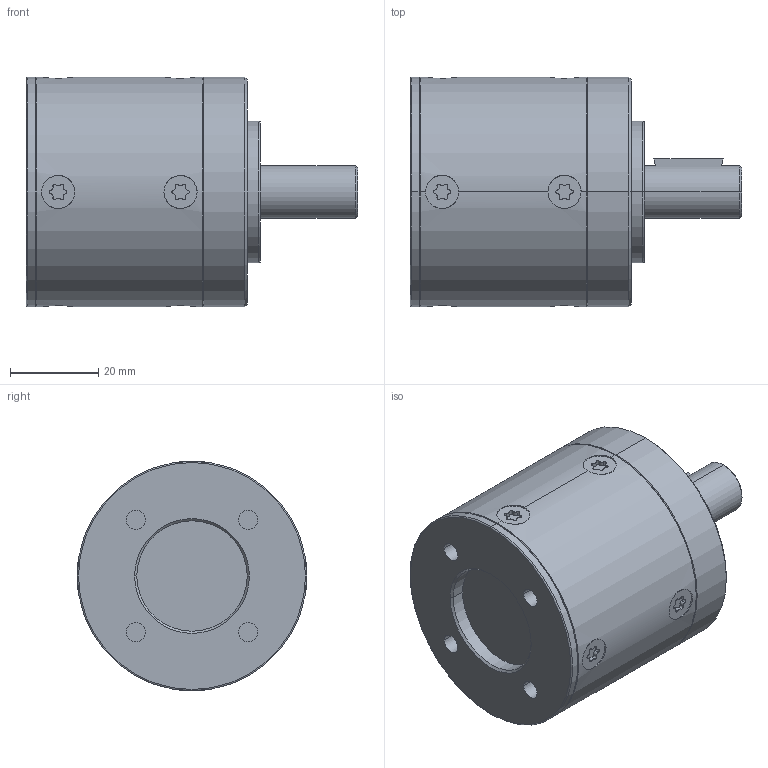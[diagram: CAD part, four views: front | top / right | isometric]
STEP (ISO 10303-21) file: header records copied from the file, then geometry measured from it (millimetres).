
FILE_DESCRIPTION((''),'2;1');
FILE_NAME('1_ST_12X25','2005-08-26T',('Andrej.Schneider'),(''),'PRO/ENGINEER BY PARAMETRIC TECHNOLOGY CORPORATION, 2003490','PRO/ENGINEER BY PARAMETRIC TECHNOLOGY CORPORATION, 2003490','');
FILE_SCHEMA(('AUTOMOTIVE_DESIGN_CC2 { 1 2 10303 214 -1 1 5 2 }'));
Length unit declared in the file: millimetre
Products named in the file (1): 1_ST_12X25
Bounding box: 75 x 52 x 52 mm (x, y, z)
Volume: 107919.4 mm3; surface area: 15658.8 mm2
Topology: 1 solids, 5 shells, 216 faces, 540 edges, 346 vertices
Faces by surface type: cylinder 150, plane 32, cone 32, torus 2
Entity records: 8358 total; most frequent: CARTESIAN_POINT 1371, DIRECTION 1272, ORIENTED_EDGE 1048, AXIS2_PLACEMENT_3D 541, EDGE_CURVE 532, VERTEX_POINT 346, CIRCLE 324, EDGE_LOOP 244
